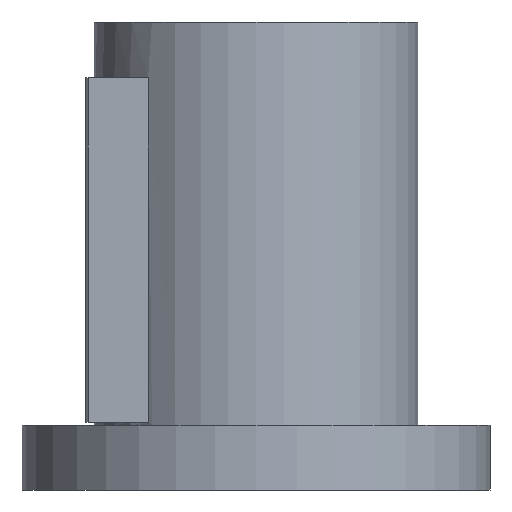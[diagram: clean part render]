
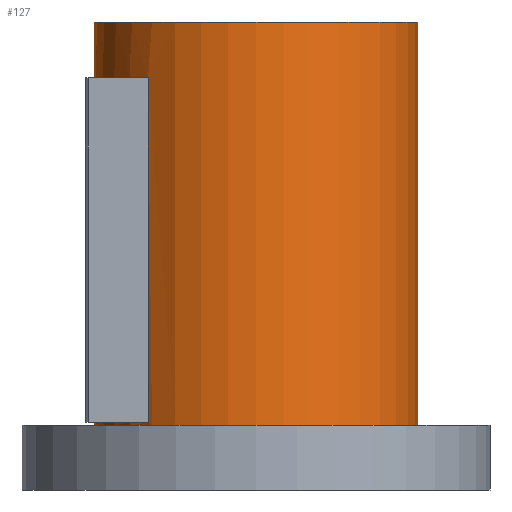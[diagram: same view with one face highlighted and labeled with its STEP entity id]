
A CAD part, front view. The second image highlights one B-rep face of the part: STEP entity #127.
In plain terms, the highlighted cylindrical face has radius 55 mm (diameter 110 mm), a full revolution.
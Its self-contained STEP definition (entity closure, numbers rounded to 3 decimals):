
#127=ADVANCED_FACE('',(#200,#201,#202),#155,.T.);
#155=CYLINDRICAL_SURFACE('',#508,55.);
#168=LINE('',#698,#184);
#169=LINE('',#702,#185);
#184=VECTOR('',#568,1.);
#185=VECTOR('',#571,1.);
#200=FACE_BOUND('',#245,.T.);
#201=FACE_BOUND('',#246,.T.);
#202=FACE_BOUND('',#247,.T.);
#245=EDGE_LOOP('',(#305));
#246=EDGE_LOOP('',(#306));
#247=EDGE_LOOP('',(#307,#308,#309,#310));
#305=ORIENTED_EDGE('',*,*,#431,.F.);
#306=ORIENTED_EDGE('',*,*,#432,.T.);
#307=ORIENTED_EDGE('',*,*,#433,.F.);
#308=ORIENTED_EDGE('',*,*,#434,.F.);
#309=ORIENTED_EDGE('',*,*,#435,.T.);
#310=ORIENTED_EDGE('',*,*,#436,.F.);
#393=VERTEX_POINT('',#692);
#394=VERTEX_POINT('',#694);
#395=VERTEX_POINT('',#696);
#396=VERTEX_POINT('',#697);
#397=VERTEX_POINT('',#699);
#398=VERTEX_POINT('',#701);
#431=EDGE_CURVE('',#393,#393,#475,.T.);
#432=EDGE_CURVE('',#394,#394,#476,.T.);
#433=EDGE_CURVE('',#395,#396,#477,.T.);
#434=EDGE_CURVE('',#397,#395,#168,.T.);
#435=EDGE_CURVE('',#397,#398,#478,.T.);
#436=EDGE_CURVE('',#396,#398,#169,.T.);
#475=CIRCLE('',#504,55.);
#476=CIRCLE('',#505,55.);
#477=CIRCLE('',#506,55.);
#478=CIRCLE('',#507,55.);
#504=AXIS2_PLACEMENT_3D('',#691,#562,#563);
#505=AXIS2_PLACEMENT_3D('',#693,#564,#565);
#506=AXIS2_PLACEMENT_3D('',#695,#566,#567);
#507=AXIS2_PLACEMENT_3D('',#700,#569,#570);
#508=AXIS2_PLACEMENT_3D('',#703,#572,#573);
#562=DIRECTION('',(0.,0.,1.));
#563=DIRECTION('',(1.,0.,0.));
#564=DIRECTION('',(0.,0.,1.));
#565=DIRECTION('',(1.,0.,0.));
#566=DIRECTION('',(0.,0.,-1.));
#567=DIRECTION('',(-1.,0.,0.));
#568=DIRECTION('',(0.,0.,1.));
#569=DIRECTION('',(0.,0.,-1.));
#570=DIRECTION('',(-1.,0.,0.));
#571=DIRECTION('',(0.,0.,-1.));
#572=DIRECTION('',(0.,0.,-1.));
#573=DIRECTION('',(-1.,0.,0.));
#691=CARTESIAN_POINT('',(0.,0.,159.));
#692=CARTESIAN_POINT('',(55.,0.,159.));
#693=CARTESIAN_POINT('',(0.,0.,22.));
#694=CARTESIAN_POINT('',(55.,0.,22.));
#695=CARTESIAN_POINT('',(0.,0.,140.));
#696=CARTESIAN_POINT('',(-36.661,-41.,140.));
#697=CARTESIAN_POINT('',(-36.661,41.,140.));
#698=CARTESIAN_POINT('',(-36.661,-41.,159.));
#699=CARTESIAN_POINT('',(-36.661,-41.,23.));
#700=CARTESIAN_POINT('',(0.,0.,23.));
#701=CARTESIAN_POINT('',(-36.661,41.,23.));
#702=CARTESIAN_POINT('',(-36.661,41.,159.));
#703=CARTESIAN_POINT('',(0.,0.,159.));
